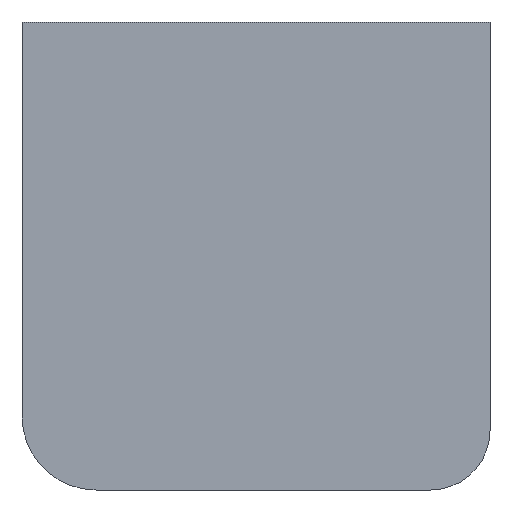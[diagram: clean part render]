
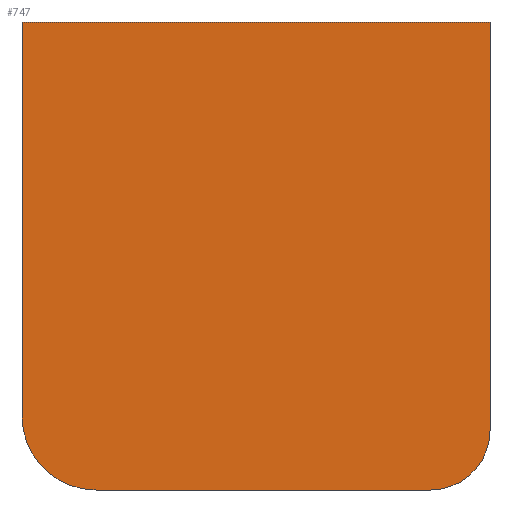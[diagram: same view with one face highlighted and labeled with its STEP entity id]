
A CAD part, left-side view. The second image highlights one B-rep face of the part: STEP entity #747.
In plain terms, the highlighted planar face has unit normal (-1, 0, 0).
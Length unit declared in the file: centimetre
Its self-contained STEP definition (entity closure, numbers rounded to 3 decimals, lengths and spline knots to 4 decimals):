
#5 = VERTEX_POINT ( 'NONE', #409 ) ;
#16 = VERTEX_POINT ( 'NONE', #112 ) ;
#17 = CARTESIAN_POINT ( 'NONE',  ( 0., 0., 127.0082 ) ) ;
#26 = EDGE_CURVE ( 'NONE', #1053, #5, #788, .T. ) ;
#44 = DIRECTION ( 'NONE',  ( 0., 0., -1. ) ) ;
#86 = CARTESIAN_POINT ( 'NONE',  ( 0., 127.0082, 127.0082 ) ) ;
#112 = CARTESIAN_POINT ( 'NONE',  ( 0., 841.5488, 0. ) ) ;
#154 = AXIS2_PLACEMENT_3D ( 'NONE', #165, #693, #946 ) ;
#164 = EDGE_CURVE ( 'NONE', #1001, #334, #712, .T. ) ;
#165 = CARTESIAN_POINT ( 'NONE',  ( 0., 1000., 1000. ) ) ;
#174 = ORIENTED_EDGE ( 'NONE', *, *, #867, .T. ) ;
#251 = FACE_OUTER_BOUND ( 'NONE', #827, .T. ) ;
#258 = AXIS2_PLACEMENT_3D ( 'NONE', #1004, #401, #489 ) ;
#274 = DIRECTION ( 'NONE',  ( 0., 0., -1. ) ) ;
#295 = ORIENTED_EDGE ( 'NONE', *, *, #164, .F. ) ;
#302 = CARTESIAN_POINT ( 'NONE',  ( 0., 1000., 0. ) ) ;
#309 = LINE ( 'NONE', #302, #1094 ) ;
#311 = ORIENTED_EDGE ( 'NONE', *, *, #833, .T. ) ;
#317 = LINE ( 'NONE', #751, #761 ) ;
#334 = VERTEX_POINT ( 'NONE', #17 ) ;
#357 = CARTESIAN_POINT ( 'NONE',  ( 0., 1000., 1000. ) ) ;
#401 = DIRECTION ( 'NONE',  ( -1., 0., 0. ) ) ;
#409 = CARTESIAN_POINT ( 'NONE',  ( 0., 1000., 158.4512 ) ) ;
#451 = CARTESIAN_POINT ( 'NONE',  ( 0., 0., 1000. ) ) ;
#489 = DIRECTION ( 'NONE',  ( 0., 0., -1. ) ) ;
#491 = DIRECTION ( 'NONE',  ( 0., -1., 0. ) ) ;
#522 = AXIS2_PLACEMENT_3D ( 'NONE', #86, #744, #44 ) ;
#523 = VERTEX_POINT ( 'NONE', #746 ) ;
#527 = VECTOR ( 'NONE', #274, 100. ) ;
#540 = EDGE_CURVE ( 'NONE', #1053, #1001, #317, .T. ) ;
#566 = ORIENTED_EDGE ( 'NONE', *, *, #26, .T. ) ;
#613 = PLANE ( 'NONE',  #154 ) ;
#661 = CIRCLE ( 'NONE', #258, 158.4512 ) ;
#693 = DIRECTION ( 'NONE',  ( 1., 0., 0. ) ) ;
#712 = LINE ( 'NONE', #451, #734 ) ;
#734 = VECTOR ( 'NONE', #1055, 100. ) ;
#744 = DIRECTION ( 'NONE',  ( -1., 0., 0. ) ) ;
#746 = CARTESIAN_POINT ( 'NONE',  ( 0., 127.0082, 0. ) ) ;
#747 = ADVANCED_FACE ( 'NONE', ( #251 ), #613, .F. ) ;
#751 = CARTESIAN_POINT ( 'NONE',  ( 0., 1000., 1000. ) ) ;
#761 = VECTOR ( 'NONE', #491, 100. ) ;
#769 = CARTESIAN_POINT ( 'NONE',  ( 0., 1000., 1000. ) ) ;
#788 = LINE ( 'NONE', #357, #527 ) ;
#793 = ORIENTED_EDGE ( 'NONE', *, *, #540, .F. ) ;
#815 = DIRECTION ( 'NONE',  ( 0., -1., 0. ) ) ;
#827 = EDGE_LOOP ( 'NONE', ( #174, #311, #295, #793, #566, #995 ) ) ;
#833 = EDGE_CURVE ( 'NONE', #523, #334, #865, .T. ) ;
#865 = CIRCLE ( 'NONE', #522, 127.0082 ) ;
#867 = EDGE_CURVE ( 'NONE', #16, #523, #309, .T. ) ;
#946 = DIRECTION ( 'NONE',  ( 0., 0., -1. ) ) ;
#951 = EDGE_CURVE ( 'NONE', #5, #16, #661, .T. ) ;
#995 = ORIENTED_EDGE ( 'NONE', *, *, #951, .T. ) ;
#1001 = VERTEX_POINT ( 'NONE', #1021 ) ;
#1004 = CARTESIAN_POINT ( 'NONE',  ( 0., 841.5488, 158.4512 ) ) ;
#1021 = CARTESIAN_POINT ( 'NONE',  ( 0., 0., 1000. ) ) ;
#1053 = VERTEX_POINT ( 'NONE', #769 ) ;
#1055 = DIRECTION ( 'NONE',  ( 0., 0., -1. ) ) ;
#1094 = VECTOR ( 'NONE', #815, 100. ) ;
